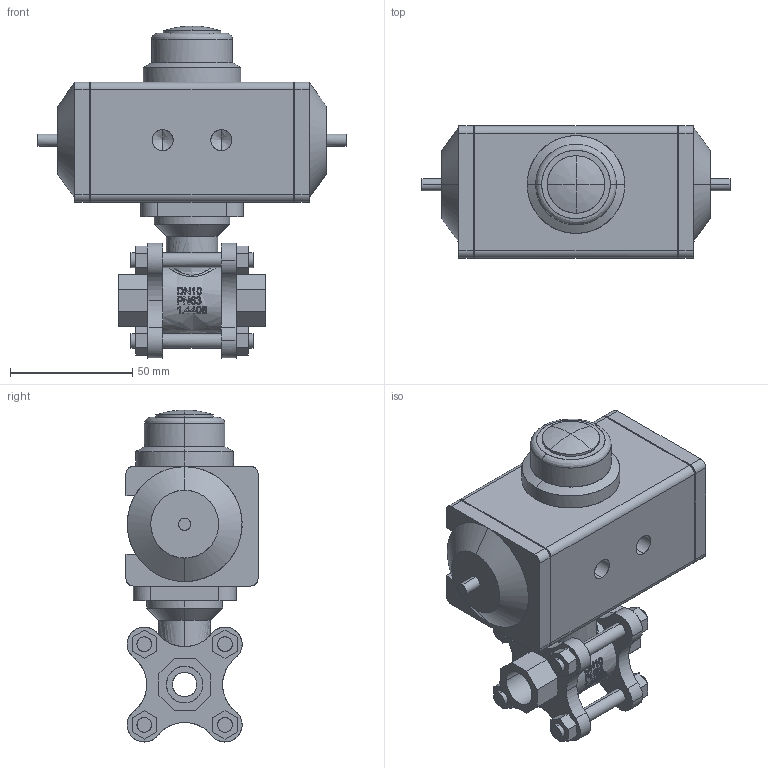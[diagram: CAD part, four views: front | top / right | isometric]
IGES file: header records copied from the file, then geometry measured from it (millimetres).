
Start section: Comment
Global section: file name: BPS 2420010P ball valve DN10.igs; native system:  By UGS Corp.; preprocessor: XPlus GENERIC/IGES 3.0; author: Author; organization: Title; date: 20110524.154444; units: millimetre
Bounding box: 126 x 54 x 135.8 mm (x, y, z)
Surface area: 62977.8 mm2 (no closed solid volume)
Topology: 0 solids, 0 shells, 445 faces, 2244 edges, 2220 vertices
Faces by surface type: bspline 445
